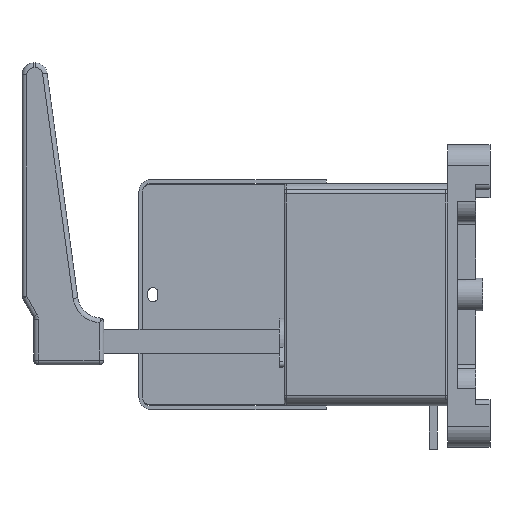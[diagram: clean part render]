
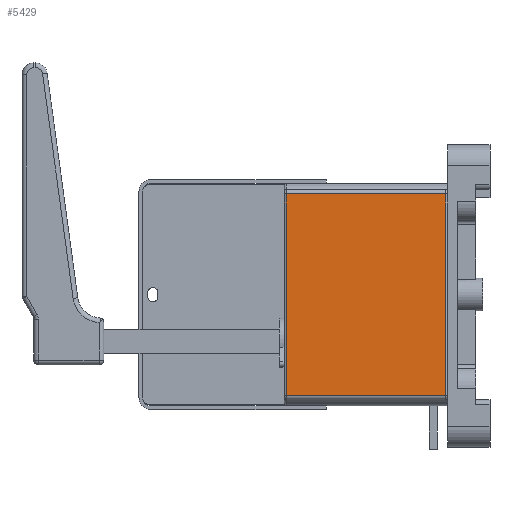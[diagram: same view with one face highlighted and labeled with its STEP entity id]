
A CAD part, left-side view. The second image highlights one B-rep face of the part: STEP entity #5429.
In plain terms, the highlighted planar face has unit normal (-1, 0, 0).
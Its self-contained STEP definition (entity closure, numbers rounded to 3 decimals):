
#2398=LINE('',#30323,#4282);
#2546=LINE('',#31002,#4430);
#2551=LINE('',#31038,#4435);
#2552=LINE('',#31040,#4436);
#4282=VECTOR('',#24740,1.);
#4430=VECTOR('',#25346,1.);
#4435=VECTOR('',#25361,1.);
#4436=VECTOR('',#25364,1.);
#5429=ADVANCED_FACE('',(#6903),#6048,.F.);
#6048=PLANE('',#20243);
#6903=FACE_OUTER_BOUND('',#8063,.T.);
#8063=EDGE_LOOP('',(#12917,#12918,#12919,#12920));
#12917=ORIENTED_EDGE('',*,*,#17769,.F.);
#12918=ORIENTED_EDGE('',*,*,#17760,.T.);
#12919=ORIENTED_EDGE('',*,*,#17770,.T.);
#12920=ORIENTED_EDGE('',*,*,#17480,.T.);
#14992=VERTEX_POINT('',#30316);
#14994=VERTEX_POINT('',#30322);
#15182=VERTEX_POINT('',#30980);
#15184=VERTEX_POINT('',#31001);
#17480=EDGE_CURVE('',#14992,#14994,#2398,.T.);
#17760=EDGE_CURVE('',#15182,#15184,#2546,.T.);
#17769=EDGE_CURVE('',#15182,#14994,#2551,.T.);
#17770=EDGE_CURVE('',#15184,#14992,#2552,.T.);
#20243=AXIS2_PLACEMENT_3D('',#31041,#25365,#25366);
#24740=DIRECTION('',(0.,0.,1.));
#25346=DIRECTION('',(0.,0.,-1.));
#25361=DIRECTION('',(0.,-1.,0.));
#25364=DIRECTION('',(0.,-1.,0.));
#25365=DIRECTION('',(1.,0.,0.));
#25366=DIRECTION('',(0.,0.,-1.));
#30316=CARTESIAN_POINT('',(-41.,1.,-43.));
#30322=CARTESIAN_POINT('',(-41.,1.,43.));
#30323=CARTESIAN_POINT('',(-41.,1.,-43.));
#30980=CARTESIAN_POINT('',(-41.,69.,43.));
#31001=CARTESIAN_POINT('',(-41.,69.,-43.));
#31002=CARTESIAN_POINT('',(-41.,69.,-43.));
#31038=CARTESIAN_POINT('',(-41.,35.,43.));
#31040=CARTESIAN_POINT('',(-41.,35.,-43.));
#31041=CARTESIAN_POINT('',(-41.,35.,-43.));
